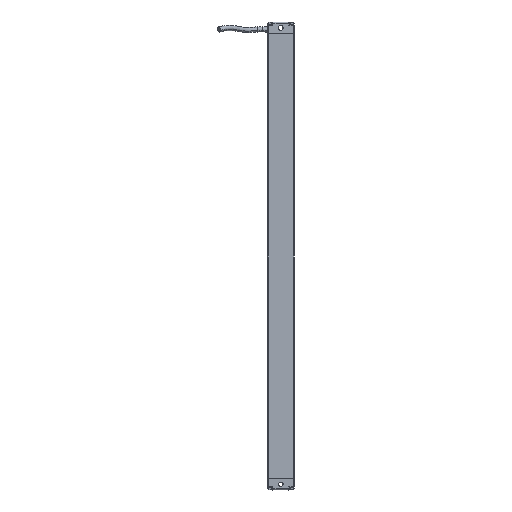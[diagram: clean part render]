
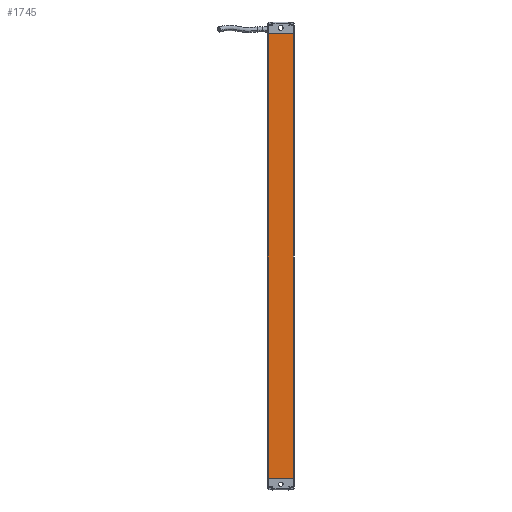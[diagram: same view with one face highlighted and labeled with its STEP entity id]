
A CAD part, front view. The second image highlights one B-rep face of the part: STEP entity #1745.
In plain terms, the highlighted planar face has unit normal (-0.001, -1, 0).
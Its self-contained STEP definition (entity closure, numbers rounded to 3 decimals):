
#1745=ADVANCED_FACE('',(#2832),#2219,.T.);
#2219=PLANE('',#15552);
#2832=FACE_OUTER_BOUND('',#3624,.T.);
#3624=EDGE_LOOP('',(#7382,#7383,#7384,#7385));
#7382=ORIENTED_EDGE('',*,*,#11620,.T.);
#7383=ORIENTED_EDGE('',*,*,#11621,.T.);
#7384=ORIENTED_EDGE('',*,*,#11622,.T.);
#7385=ORIENTED_EDGE('',*,*,#11521,.F.);
#9586=VERTEX_POINT('',#25344);
#9587=VERTEX_POINT('',#25346);
#9677=VERTEX_POINT('',#25542);
#9678=VERTEX_POINT('',#25546);
#11521=EDGE_CURVE('',#9586,#9587,#13022,.T.);
#11620=EDGE_CURVE('',#9586,#9677,#13079,.T.);
#11621=EDGE_CURVE('',#9677,#9678,#13080,.T.);
#11622=EDGE_CURVE('',#9678,#9587,#13081,.T.);
#13022=LINE('',#25345,#14237);
#13079=LINE('',#25543,#14294);
#13080=LINE('',#25545,#14295);
#13081=LINE('',#25547,#14296);
#14237=VECTOR('',#18521,1.);
#14294=VECTOR('',#18678,1.);
#14295=VECTOR('',#18681,1.);
#14296=VECTOR('',#18682,1.);
#15552=AXIS2_PLACEMENT_3D('',#25548,#18683,#18684);
#18521=DIRECTION('',(1.,-0.001,0.));
#18678=DIRECTION('',(0.,0.,-1.));
#18681=DIRECTION('',(1.,-0.001,0.));
#18682=DIRECTION('',(0.,0.,1.));
#18683=DIRECTION('',(-0.001,-1.,0.));
#18684=DIRECTION('',(-1.,0.001,0.));
#25344=CARTESIAN_POINT('',(53.048,-142.376,640.376));
#25345=CARTESIAN_POINT('',(53.048,-142.376,640.376));
#25346=CARTESIAN_POINT('',(79.028,-142.395,640.376));
#25542=CARTESIAN_POINT('',(53.048,-142.376,178.376));
#25543=CARTESIAN_POINT('',(53.048,-142.376,543.376));
#25545=CARTESIAN_POINT('',(79.028,-142.395,178.376));
#25546=CARTESIAN_POINT('',(79.028,-142.395,178.376));
#25547=CARTESIAN_POINT('',(79.028,-142.395,198.376));
#25548=CARTESIAN_POINT('',(79.028,-142.395,543.376));
